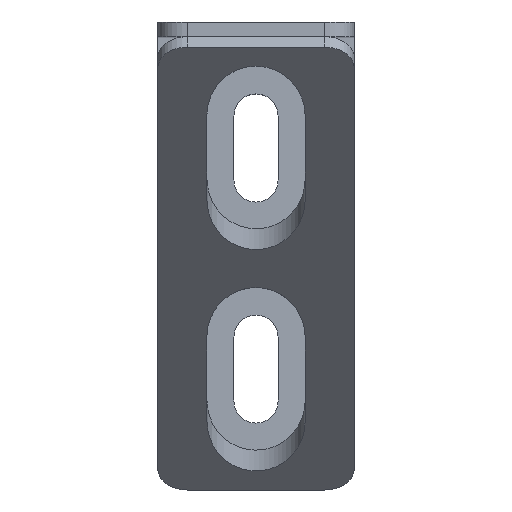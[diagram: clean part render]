
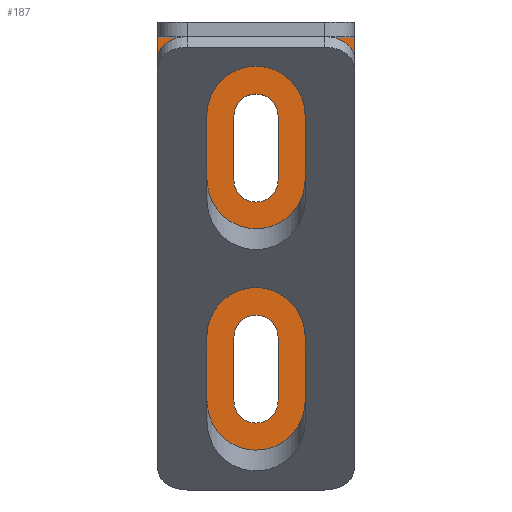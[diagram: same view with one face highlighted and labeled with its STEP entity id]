
A CAD part, top view. The second image highlights one B-rep face of the part: STEP entity #187.
In plain terms, the highlighted planar face has unit normal (0, 0, 1).
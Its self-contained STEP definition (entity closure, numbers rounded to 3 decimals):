
#12 = VECTOR ( 'NONE', #305, 1000. ) ;
#14 = AXIS2_PLACEMENT_3D ( 'NONE', #1048, #437, #1153 ) ;
#18 = DIRECTION ( 'NONE',  ( 0., 0., 1. ) ) ;
#22 = DIRECTION ( 'NONE',  ( 1., 0., 0. ) ) ;
#30 = CARTESIAN_POINT ( 'NONE',  ( -28.615, -22.877, 3. ) ) ;
#40 = ORIENTED_EDGE ( 'NONE', *, *, #392, .F. ) ;
#46 = VERTEX_POINT ( 'NONE', #1300 ) ;
#53 = VECTOR ( 'NONE', #241, 1000. ) ;
#59 = DIRECTION ( 'NONE',  ( 1., 0., 0. ) ) ;
#74 = EDGE_CURVE ( 'NONE', #502, #972, #342, .T. ) ;
#88 = CARTESIAN_POINT ( 'NONE',  ( -10.115, 32.123, 3. ) ) ;
#98 = LINE ( 'NONE', #986, #1135 ) ;
#112 = EDGE_CURVE ( 'NONE', #690, #1279, #1089, .T. ) ;
#125 = DIRECTION ( 'NONE',  ( 1., 0., 0. ) ) ;
#139 = VERTEX_POINT ( 'NONE', #1331 ) ;
#187 = ADVANCED_FACE ( 'NONE', ( #512, #1268, #480 ), #421, .T. ) ;
#225 = AXIS2_PLACEMENT_3D ( 'NONE', #915, #308, #1027 ) ;
#241 = DIRECTION ( 'NONE',  ( 0., -1., 0. ) ) ;
#252 = VERTEX_POINT ( 'NONE', #840 ) ;
#265 = CIRCLE ( 'NONE', #687, 4.5 ) ;
#276 = EDGE_LOOP ( 'NONE', ( #854, #898, #831, #857, #762, #960 ) ) ;
#282 = LINE ( 'NONE', #807, #12 ) ;
#305 = DIRECTION ( 'NONE',  ( 0., -1., 0. ) ) ;
#308 = DIRECTION ( 'NONE',  ( 0., 0., 1. ) ) ;
#310 = EDGE_CURVE ( 'NONE', #658, #252, #695, .T. ) ;
#317 = VECTOR ( 'NONE', #405, 1000. ) ;
#328 = DIRECTION ( 'NONE',  ( 0., 1., 0. ) ) ;
#342 = LINE ( 'NONE', #907, #877 ) ;
#346 = VERTEX_POINT ( 'NONE', #738 ) ;
#365 = CARTESIAN_POINT ( 'NONE',  ( -19.115, 32.123, 3. ) ) ;
#366 = EDGE_CURVE ( 'NONE', #972, #139, #1208, .T. ) ;
#392 = EDGE_CURVE ( 'NONE', #1110, #690, #1154, .T. ) ;
#405 = DIRECTION ( 'NONE',  ( -1., 0., 0. ) ) ;
#421 = PLANE ( 'NONE',  #769 ) ;
#433 = VECTOR ( 'NONE', #328, 1000. ) ;
#437 = DIRECTION ( 'NONE',  ( 0., 0., 1. ) ) ;
#458 = CARTESIAN_POINT ( 'NONE',  ( -14.615, 0.123, 3. ) ) ;
#461 = CARTESIAN_POINT ( 'NONE',  ( -34.615, -22.877, 3. ) ) ;
#478 = EDGE_CURVE ( 'NONE', #346, #788, #265, .T. ) ;
#480 = FACE_BOUND ( 'NONE', #998, .T. ) ;
#502 = VERTEX_POINT ( 'NONE', #1181 ) ;
#512 = FACE_BOUND ( 'NONE', #666, .T. ) ;
#516 = ORIENTED_EDGE ( 'NONE', *, *, #794, .F. ) ;
#551 = CARTESIAN_POINT ( 'NONE',  ( -19.115, -12.877, 3. ) ) ;
#552 = ORIENTED_EDGE ( 'NONE', *, *, #478, .F. ) ;
#555 = DIRECTION ( 'NONE',  ( 0., 1., 0. ) ) ;
#557 = DIRECTION ( 'NONE',  ( 0., 1., 0. ) ) ;
#566 = DIRECTION ( 'NONE',  ( 1., 0., 0. ) ) ;
#589 = DIRECTION ( 'NONE',  ( 0., -1., 0. ) ) ;
#592 = EDGE_CURVE ( 'NONE', #46, #817, #1266, .T. ) ;
#596 = LINE ( 'NONE', #616, #317 ) ;
#607 = LINE ( 'NONE', #1265, #874 ) ;
#616 = CARTESIAN_POINT ( 'NONE',  ( -34.615, 61.123, 3. ) ) ;
#633 = ORIENTED_EDGE ( 'NONE', *, *, #1180, .F. ) ;
#640 = EDGE_CURVE ( 'NONE', #139, #46, #98, .T. ) ;
#641 = DIRECTION ( 'NONE',  ( 0., 0., 1. ) ) ;
#658 = VERTEX_POINT ( 'NONE', #551 ) ;
#666 = EDGE_LOOP ( 'NONE', ( #778, #552, #1312, #1216 ) ) ;
#677 = VECTOR ( 'NONE', #555, 1000. ) ;
#682 = DIRECTION ( 'NONE',  ( 0., 0., 1. ) ) ;
#687 = AXIS2_PLACEMENT_3D ( 'NONE', #458, #1175, #566 ) ;
#690 = VERTEX_POINT ( 'NONE', #1019 ) ;
#695 = CIRCLE ( 'NONE', #981, 4.5 ) ;
#732 = DIRECTION ( 'NONE',  ( 1., 0., 0. ) ) ;
#736 = LINE ( 'NONE', #832, #433 ) ;
#738 = CARTESIAN_POINT ( 'NONE',  ( -10.115, 0.123, 3. ) ) ;
#743 = DIRECTION ( 'NONE',  ( 0., 0., 1. ) ) ;
#754 = CARTESIAN_POINT ( 'NONE',  ( -19.115, 0.123, 3. ) ) ;
#762 = ORIENTED_EDGE ( 'NONE', *, *, #366, .T. ) ;
#769 = AXIS2_PLACEMENT_3D ( 'NONE', #1243, #18, #732 ) ;
#778 = ORIENTED_EDGE ( 'NONE', *, *, #881, .F. ) ;
#788 = VERTEX_POINT ( 'NONE', #820 ) ;
#794 = EDGE_CURVE ( 'NONE', #966, #1110, #995, .T. ) ;
#807 = CARTESIAN_POINT ( 'NONE',  ( -19.115, 45.123, 3. ) ) ;
#817 = VERTEX_POINT ( 'NONE', #1258 ) ;
#820 = CARTESIAN_POINT ( 'NONE',  ( -19.115, 0.123, 3. ) ) ;
#831 = ORIENTED_EDGE ( 'NONE', *, *, #1144, .T. ) ;
#832 = CARTESIAN_POINT ( 'NONE',  ( -10.115, 0.123, 3. ) ) ;
#840 = CARTESIAN_POINT ( 'NONE',  ( -10.115, -12.877, 3. ) ) ;
#842 = VERTEX_POINT ( 'NONE', #1051 ) ;
#854 = ORIENTED_EDGE ( 'NONE', *, *, #592, .T. ) ;
#857 = ORIENTED_EDGE ( 'NONE', *, *, #74, .T. ) ;
#863 = EDGE_CURVE ( 'NONE', #817, #842, #607, .T. ) ;
#874 = VECTOR ( 'NONE', #557, 1000. ) ;
#877 = VECTOR ( 'NONE', #589, 1000. ) ;
#881 = EDGE_CURVE ( 'NONE', #788, #658, #1117, .T. ) ;
#898 = ORIENTED_EDGE ( 'NONE', *, *, #863, .T. ) ;
#907 = CARTESIAN_POINT ( 'NONE',  ( -34.615, 61.123, 3. ) ) ;
#914 = ORIENTED_EDGE ( 'NONE', *, *, #112, .F. ) ;
#915 = CARTESIAN_POINT ( 'NONE',  ( -14.615, 45.123, 3. ) ) ;
#923 = CARTESIAN_POINT ( 'NONE',  ( -19.115, 45.123, 3. ) ) ;
#960 = ORIENTED_EDGE ( 'NONE', *, *, #640, .T. ) ;
#966 = VERTEX_POINT ( 'NONE', #365 ) ;
#972 = VERTEX_POINT ( 'NONE', #461 ) ;
#981 = AXIS2_PLACEMENT_3D ( 'NONE', #1245, #641, #22 ) ;
#986 = CARTESIAN_POINT ( 'NONE',  ( -28.615, -28.877, 3. ) ) ;
#995 = CIRCLE ( 'NONE', #14, 4.5 ) ;
#998 = EDGE_LOOP ( 'NONE', ( #633, #914, #40, #516 ) ) ;
#1019 = CARTESIAN_POINT ( 'NONE',  ( -10.115, 45.123, 3. ) ) ;
#1025 = AXIS2_PLACEMENT_3D ( 'NONE', #1288, #682, #59 ) ;
#1027 = DIRECTION ( 'NONE',  ( 1., 0., 0. ) ) ;
#1048 = CARTESIAN_POINT ( 'NONE',  ( -14.615, 32.123, 3. ) ) ;
#1051 = CARTESIAN_POINT ( 'NONE',  ( 5.385, 61.123, 3. ) ) ;
#1089 = CIRCLE ( 'NONE', #225, 4.5 ) ;
#1096 = DIRECTION ( 'NONE',  ( 1., 0., 0. ) ) ;
#1110 = VERTEX_POINT ( 'NONE', #88 ) ;
#1117 = LINE ( 'NONE', #754, #53 ) ;
#1135 = VECTOR ( 'NONE', #1096, 1000. ) ;
#1144 = EDGE_CURVE ( 'NONE', #842, #502, #596, .T. ) ;
#1153 = DIRECTION ( 'NONE',  ( 1., 0., 0. ) ) ;
#1154 = LINE ( 'NONE', #1165, #677 ) ;
#1165 = CARTESIAN_POINT ( 'NONE',  ( -10.115, 45.123, 3. ) ) ;
#1175 = DIRECTION ( 'NONE',  ( 0., 0., 1. ) ) ;
#1180 = EDGE_CURVE ( 'NONE', #1279, #966, #282, .T. ) ;
#1181 = CARTESIAN_POINT ( 'NONE',  ( -34.615, 61.123, 3. ) ) ;
#1208 = CIRCLE ( 'NONE', #1261, 6. ) ;
#1216 = ORIENTED_EDGE ( 'NONE', *, *, #310, .F. ) ;
#1243 = CARTESIAN_POINT ( 'NONE',  ( -0.615, -22.877, 3. ) ) ;
#1245 = CARTESIAN_POINT ( 'NONE',  ( -14.615, -12.877, 3. ) ) ;
#1258 = CARTESIAN_POINT ( 'NONE',  ( 5.385, -22.877, 3. ) ) ;
#1261 = AXIS2_PLACEMENT_3D ( 'NONE', #30, #743, #125 ) ;
#1265 = CARTESIAN_POINT ( 'NONE',  ( 5.385, 61.123, 3. ) ) ;
#1266 = CIRCLE ( 'NONE', #1025, 6. ) ;
#1268 = FACE_OUTER_BOUND ( 'NONE', #276, .T. ) ;
#1279 = VERTEX_POINT ( 'NONE', #923 ) ;
#1288 = CARTESIAN_POINT ( 'NONE',  ( -0.615, -22.877, 3. ) ) ;
#1299 = EDGE_CURVE ( 'NONE', #252, #346, #736, .T. ) ;
#1300 = CARTESIAN_POINT ( 'NONE',  ( -0.615, -28.877, 3. ) ) ;
#1312 = ORIENTED_EDGE ( 'NONE', *, *, #1299, .F. ) ;
#1331 = CARTESIAN_POINT ( 'NONE',  ( -28.615, -28.877, 3. ) ) ;
